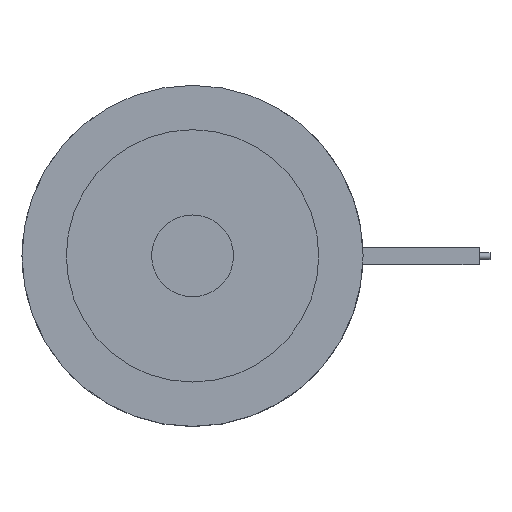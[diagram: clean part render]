
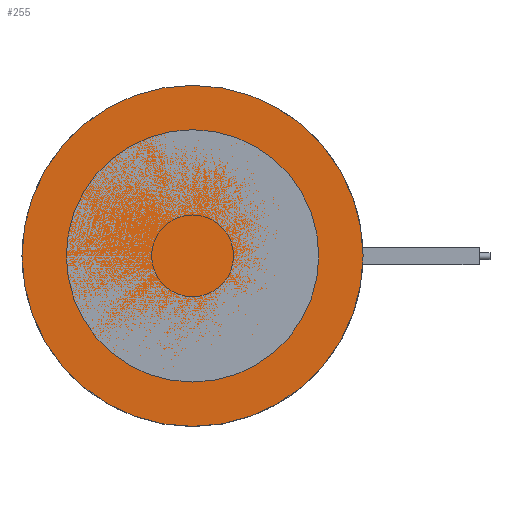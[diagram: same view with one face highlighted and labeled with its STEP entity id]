
A CAD part, top view. The second image highlights one B-rep face of the part: STEP entity #255.
In plain terms, the highlighted planar face has unit normal (0, 0, 1).
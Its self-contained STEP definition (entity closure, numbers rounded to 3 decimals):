
#255=ADVANCED_FACE('',(#335),#289,.F.);
#289=PLANE('',#1139);
#335=FACE_OUTER_BOUND('',#421,.T.);
#421=EDGE_LOOP('',(#719));
#490=CIRCLE('',#1138,25.);
#719=ORIENTED_EDGE('',*,*,#936,.F.);
#817=VERTEX_POINT('',#2007);
#936=EDGE_CURVE('',#817,#817,#490,.T.);
#1138=AXIS2_PLACEMENT_3D('',#2006,#1416,#1417);
#1139=AXIS2_PLACEMENT_3D('',#2008,#1418,#1419);
#1416=DIRECTION('',(0.,0.,-1.));
#1417=DIRECTION('',(-1.,0.,0.));
#1418=DIRECTION('',(0.,0.,-1.));
#1419=DIRECTION('',(-1.,0.,0.));
#2006=CARTESIAN_POINT('',(0.,0.,0.));
#2007=CARTESIAN_POINT('',(-25.,0.,0.));
#2008=CARTESIAN_POINT('',(0.,0.,0.));
